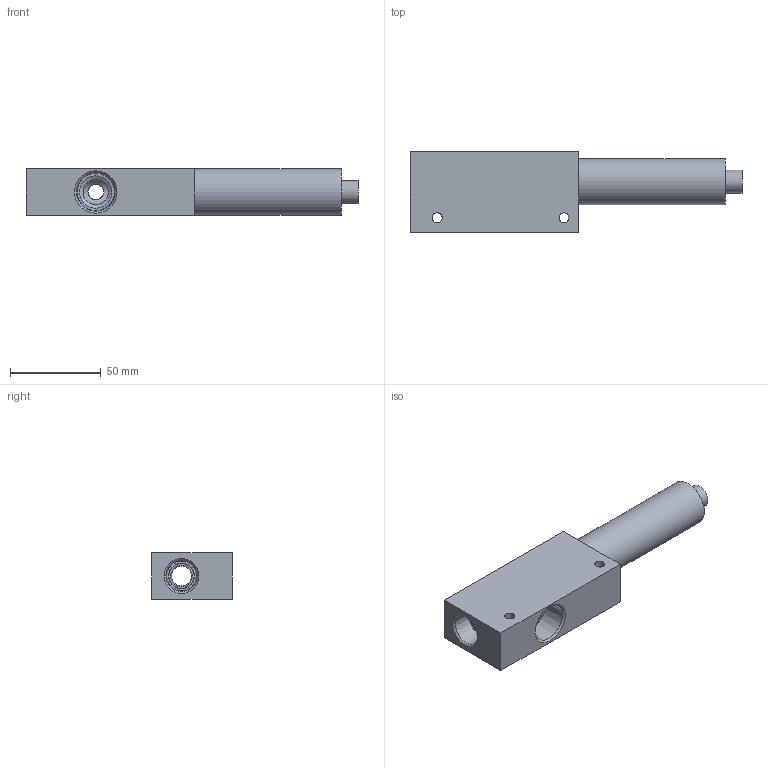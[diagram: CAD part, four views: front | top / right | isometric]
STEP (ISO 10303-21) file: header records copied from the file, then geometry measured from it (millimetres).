
FILE_DESCRIPTION (( 'STEP AP214' ), '1' );
FILE_NAME ('SSV-500-N.STEP', '2025-09-16T13:20:29', ( '' ), ( '' ), 'SwSTEP 2.0', 'SolidWorks 2025', '' );
FILE_SCHEMA (( 'AUTOMOTIVE_DESIGN' ));
Length unit declared in the file: inch
Products named in the file (3): SSV-500-N; 1024; GS-ST38
Assembly tree (2 placements, depth 2):
  SSV-500-N
    1024
    GS-ST38
Bounding box: 183.2 x 44.45 x 25.4 mm (x, y, z)
Volume: 113614.4 mm3; surface area: 33205.3 mm2
Topology: 2 solids, 2 shells, 60 faces, 125 edges, 76 vertices
Faces by surface type: cone 25, cylinder 19, plane 16
Full cylindrical faces by diameter (mm): 5.5 x2, 8.611 x1, 11 x2, 12 x1, 12.7 x2, 14 x2, 14.275 x1, 14.3 x5, 14.95 x1, 17.856 x1, 25.4 x1
Entity records: 1484 total; most frequent: CARTESIAN_POINT 282, DIRECTION 256, ORIENTED_EDGE 144, EDGE_LOOP 124, AXIS2_PLACEMENT_3D 122, FACE_OUTER_BOUND 79, EDGE_CURVE 72, VERTEX_POINT 68
